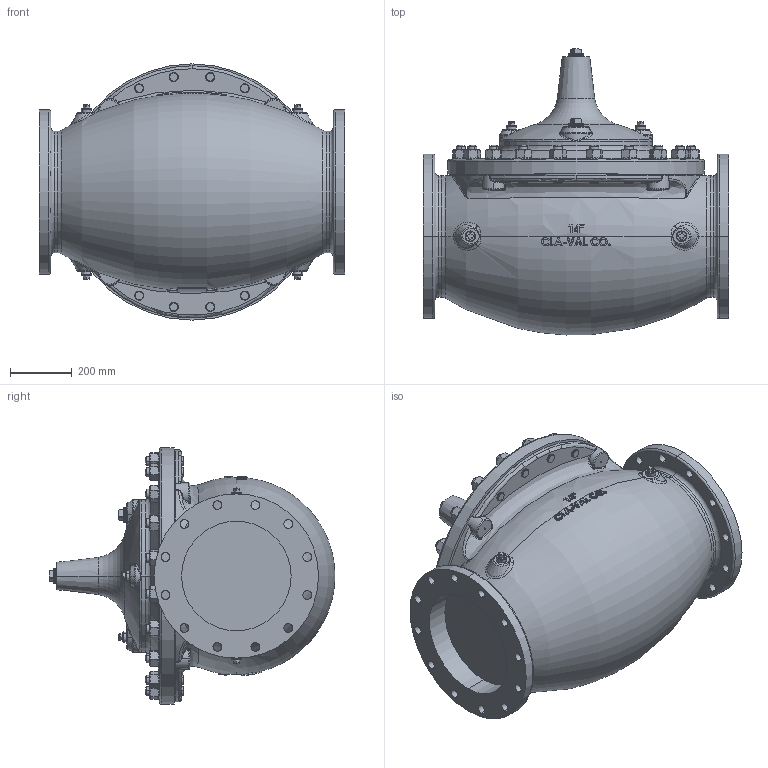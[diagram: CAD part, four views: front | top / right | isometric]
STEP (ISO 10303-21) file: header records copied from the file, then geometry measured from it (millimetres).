
FILE_DESCRIPTION (( 'STEP AP203' ), '1' );
FILE_NAME ('14in Hytrol 150AG.STEP', '2018-06-04T17:36:47', ( '' ), ( '' ), 'SwSTEP 2.0', 'SolidWorks 2017', '' );
FILE_SCHEMA (( 'CONFIG_CONTROL_DESIGN' ));
Length unit declared in the file: inch
Products named in the file (8): STUD 1.250-7 UNC (42786)_18-8 SST 4.90 LG; WASHER, PLAIN FLAT FOR 1.250 SCREW (67757)_1.250N   67757-04H; Hexnut 1.250-7 UNC (67820)_ASF-303 SST; 14in Hytrol 150AG; 14in Body HyGl150A STD_Default 150LB FLAT FACE; 14in Cover_No spotface  (DI BLUE); 1.5 NPT SQ HD PIPE PLUG (67660)_STEEL CP; 1.0 NPT SQ HD PIPE PLUG (67660)_STEEL CAD PLT
Assembly tree (71 placements, depth 2):
  14in Hytrol 150AG
    14in Body HyGl150A STD_Default 150LB FLAT FACE
    14in Cover_No spotface  (DI BLUE)
    1.5 NPT SQ HD PIPE PLUG (67660)_STEEL CP  x2
    1.0 NPT SQ HD PIPE PLUG (67660)_STEEL CAD PLT  x7
    STUD 1.250-7 UNC (42786)_18-8 SST 4.90 LG  x20
    WASHER, PLAIN FLAT FOR 1.250 SCREW (67757)_1.250N   67757-04H  x20
    Hexnut 1.250-7 UNC (67820)_ASF-303 SST  x20
Bounding box: 990.6 x 928.31 x 831.85 mm (x, y, z)
Volume: 263010077.8 mm3; surface area: 5088931.7 mm2
Topology: 71 solids, 71 shells, 2434 faces, 5638 edges, 3352 vertices
Faces by surface type: cylinder 645, cone 623, plane 466, bspline 317, torus 313, sphere 70
Entity records: 64831 total; most frequent: CARTESIAN_POINT 37012, ORIENTED_EDGE 5742, DIRECTION 4589, EDGE_CURVE 2871, AXIS2_PLACEMENT_3D 1958, VERTEX_POINT 1818, EDGE_LOOP 1349, FACE_OUTER_BOUND 1145
